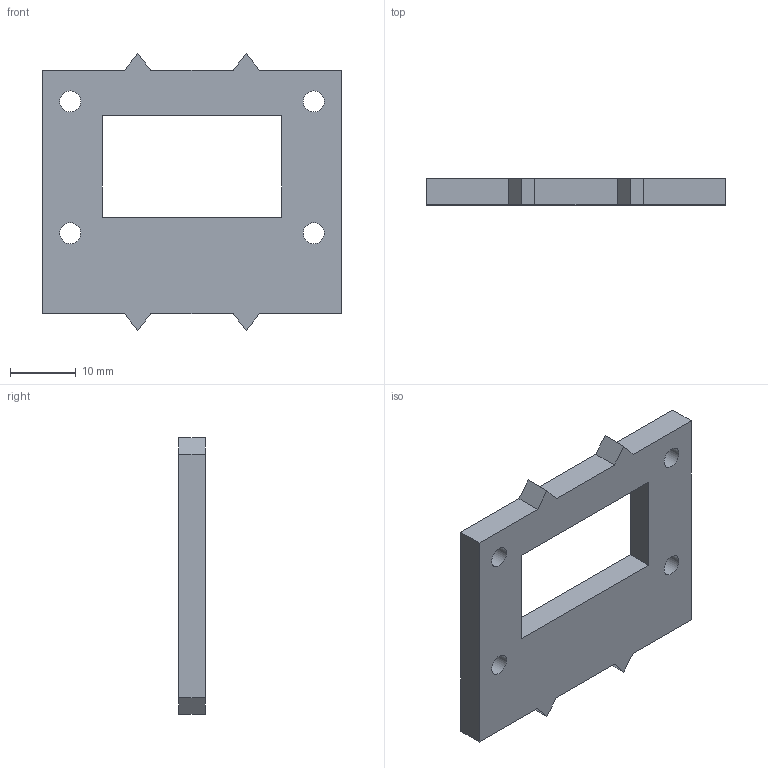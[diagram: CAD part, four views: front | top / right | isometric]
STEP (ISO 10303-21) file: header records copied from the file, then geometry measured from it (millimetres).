
FILE_DESCRIPTION(('FreeCAD Model'),'2;1');
FILE_NAME('Open CASCADE Shape Model','2024-06-26T11:40:23',('FreeCAD'),( 'FreeCAD'),'Open CASCADE STEP processor 7.6','FreeCAD','Unknown');
FILE_SCHEMA(('AUTOMOTIVE_DESIGN { 1 0 10303 214 1 1 1 1 }'));
Length unit declared in the file: millimetre
Products named in the file (1): Open CASCADE STEP translator 7.6 5
Bounding box: 45.5 x 4 x 42 mm (x, y, z)
Volume: 4994.9 mm3; surface area: 3699 mm2
Topology: 1 solids, 1 shells, 26 faces, 72 edges, 48 vertices
Faces by surface type: plane 22, cylinder 4
Full cylindrical faces by diameter (mm): 3.2 x4
Entity records: 854 total; most frequent: CARTESIAN_POINT 147, ORIENTED_EDGE 144, DIRECTION 134, EDGE_CURVE 72, LINE 64, VECTOR 64, VERTEX_POINT 48, FACE_BOUND 36
